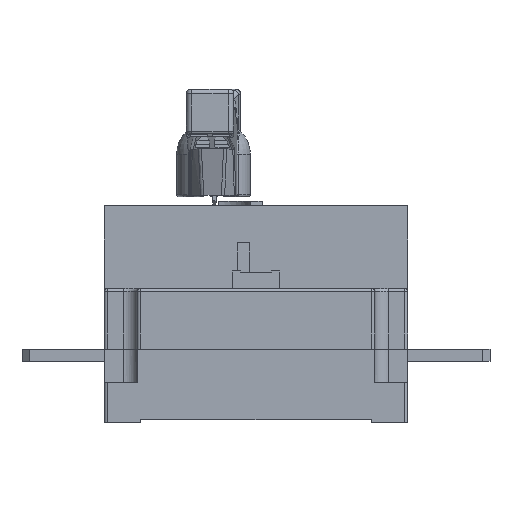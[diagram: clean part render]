
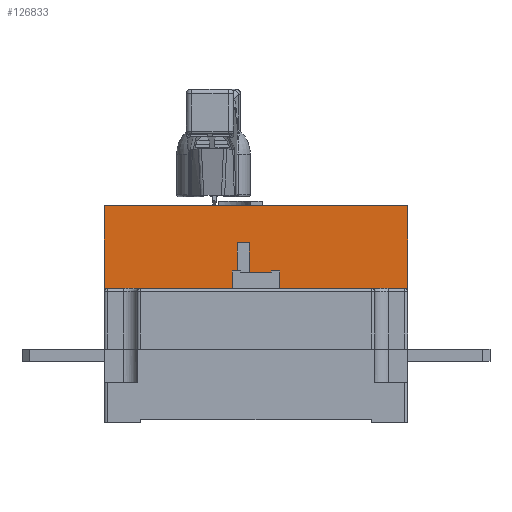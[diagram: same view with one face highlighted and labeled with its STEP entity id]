
A CAD part, left-side view. The second image highlights one B-rep face of the part: STEP entity #126833.
In plain terms, the highlighted planar face has unit normal (-1, 0, 0).
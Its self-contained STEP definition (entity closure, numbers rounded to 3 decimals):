
#269 = CARTESIAN_POINT ( 'NONE',  ( -63., -100., 104.667 ) ) ;
#611 = ORIENTED_EDGE ( 'NONE', *, *, #135708, .F. ) ;
#3189 = EDGE_CURVE ( 'NONE', #172584, #144645, #219959, .T. ) ;
#6685 = VERTEX_POINT ( 'NONE', #196140 ) ;
#10640 = CARTESIAN_POINT ( 'NONE',  ( -63., -30.333, 86.5 ) ) ;
#13076 = CARTESIAN_POINT ( 'NONE',  ( -63., 12.5, 96.5 ) ) ;
#13450 = CARTESIAN_POINT ( 'NONE',  ( -63., 12.5, 116.5 ) ) ;
#15823 = B_SPLINE_CURVE_WITH_KNOTS ( 'NONE', 3,
 ( #222946, #207046, #221832, #13450 ),
 .UNSPECIFIED., .F., .F.,
 ( 4, 4 ),
 ( -1., 0. ),
 .UNSPECIFIED. ) ;
#17578 = VERTEX_POINT ( 'NONE', #100336 ) ;
#17758 = EDGE_CURVE ( 'NONE', #30651, #17578, #193308, .T. ) ;
#21461 = PLANE ( 'NONE',  #160914 ) ;
#26784 = CARTESIAN_POINT ( 'NONE',  ( -63., -100., 86.5 ) ) ;
#30020 = CARTESIAN_POINT ( 'NONE',  ( -63., 12.5, 116.5 ) ) ;
#30651 = VERTEX_POINT ( 'NONE', #135906 ) ;
#34719 = ORIENTED_EDGE ( 'NONE', *, *, #54297, .F. ) ;
#39558 = FACE_OUTER_BOUND ( 'NONE', #188873, .T. ) ;
#40958 = EDGE_CURVE ( 'NONE', #97394, #144645, #166688, .T. ) ;
#44898 = ORIENTED_EDGE ( 'NONE', *, *, #58497, .F. ) ;
#45520 = ORIENTED_EDGE ( 'NONE', *, *, #134501, .F. ) ;
#45640 = CARTESIAN_POINT ( 'NONE',  ( -63., 100., 141. ) ) ;
#51222 = CARTESIAN_POINT ( 'NONE',  ( -63., -100., 141. ) ) ;
#51242 = ORIENTED_EDGE ( 'NONE', *, *, #17758, .F. ) ;
#54297 = EDGE_CURVE ( 'NONE', #6685, #77935, #15823, .T. ) ;
#58497 = EDGE_CURVE ( 'NONE', #172584, #220573, #179231, .T. ) ;
#60554 = CARTESIAN_POINT ( 'NONE',  ( -63., 41.667, 86.5 ) ) ;
#62547 = B_SPLINE_CURVE_WITH_KNOTS ( 'NONE', 3,
 ( #30020, #168164, #13076, #151215 ),
 .UNSPECIFIED., .F., .F.,
 ( 4, 4 ),
 ( 0., 1. ),
 .UNSPECIFIED. ) ;
#68222 = CARTESIAN_POINT ( 'NONE',  ( -63., -100., 122.833 ) ) ;
#73827 = CARTESIAN_POINT ( 'NONE',  ( -63., 12.5, 116.5 ) ) ;
#77935 = VERTEX_POINT ( 'NONE', #73827 ) ;
#78513 = CARTESIAN_POINT ( 'NONE',  ( -63., -33.333, 141. ) ) ;
#80725 = CARTESIAN_POINT ( 'NONE',  ( -63., 33.333, 141. ) ) ;
#81905 = CARTESIAN_POINT ( 'NONE',  ( -63., 4.5, 86.5 ) ) ;
#88694 = ORIENTED_EDGE ( 'NONE', *, *, #128242, .F. ) ;
#90572 = DIRECTION ( 'NONE',  ( 1., 0., 0. ) ) ;
#97394 = VERTEX_POINT ( 'NONE', #177180 ) ;
#98946 = CARTESIAN_POINT ( 'NONE',  ( -63., -65.167, 86.5 ) ) ;
#100336 = CARTESIAN_POINT ( 'NONE',  ( -63., 100., 86.5 ) ) ;
#100439 = CARTESIAN_POINT ( 'NONE',  ( -63., 4.5, 86.5 ) ) ;
#100492 = CARTESIAN_POINT ( 'NONE',  ( -63., 100., 141. ) ) ;
#101150 = CARTESIAN_POINT ( 'NONE',  ( -63., -100., 86.5 ) ) ;
#114959 = ORIENTED_EDGE ( 'NONE', *, *, #40958, .F. ) ;
#115662 = CARTESIAN_POINT ( 'NONE',  ( -63., 70.833, 86.5 ) ) ;
#117196 = ORIENTED_EDGE ( 'NONE', *, *, #3189, .T. ) ;
#118607 = CARTESIAN_POINT ( 'NONE',  ( -63., 100., 104.667 ) ) ;
#126833 = ADVANCED_FACE ( 'NONE', ( #39558 ), #21461, .F. ) ;
#128242 = EDGE_CURVE ( 'NONE', #77935, #30651, #62547, .T. ) ;
#134501 = EDGE_CURVE ( 'NONE', #220573, #6685, #153265, .T. ) ;
#135708 = EDGE_CURVE ( 'NONE', #17578, #97394, #139786, .T. ) ;
#135906 = CARTESIAN_POINT ( 'NONE',  ( -63., 12.5, 86.5 ) ) ;
#136009 = CARTESIAN_POINT ( 'NONE',  ( -63., 12.5, 86.5 ) ) ;
#136680 = CARTESIAN_POINT ( 'NONE',  ( -63., 4.5, 116.5 ) ) ;
#136729 = CARTESIAN_POINT ( 'NONE',  ( -63., 100., 86.5 ) ) ;
#137779 = CARTESIAN_POINT ( 'NONE',  ( -63., 4.5, 106.5 ) ) ;
#139786 = B_SPLINE_CURVE_WITH_KNOTS ( 'NONE', 3,
 ( #136729, #118607, #188791, #100492 ),
 .UNSPECIFIED., .F., .F.,
 ( 4, 4 ),
 ( 0., 1. ),
 .UNSPECIFIED. ) ;
#140410 = DIRECTION ( 'NONE',  ( 0., 0., 1. ) ) ;
#144645 = VERTEX_POINT ( 'NONE', #172820 ) ;
#151215 = CARTESIAN_POINT ( 'NONE',  ( -63., 12.5, 86.5 ) ) ;
#153265 = B_SPLINE_CURVE_WITH_KNOTS ( 'NONE', 3,
 ( #100439, #169484, #137779, #136680 ),
 .UNSPECIFIED., .F., .F.,
 ( 4, 4 ),
 ( 0., 1. ),
 .UNSPECIFIED. ) ;
#157399 = CARTESIAN_POINT ( 'NONE',  ( -63., 100., 141. ) ) ;
#160914 = AXIS2_PLACEMENT_3D ( 'NONE', #157399, #90572, #140410 ) ;
#166688 = B_SPLINE_CURVE_WITH_KNOTS ( 'NONE', 3,
 ( #45640, #80725, #78513, #200810 ),
 .UNSPECIFIED., .F., .F.,
 ( 4, 4 ),
 ( 0., 1. ),
 .UNSPECIFIED. ) ;
#168164 = CARTESIAN_POINT ( 'NONE',  ( -63., 12.5, 106.5 ) ) ;
#169484 = CARTESIAN_POINT ( 'NONE',  ( -63., 4.5, 96.5 ) ) ;
#172584 = VERTEX_POINT ( 'NONE', #26784 ) ;
#172820 = CARTESIAN_POINT ( 'NONE',  ( -63., -100., 141. ) ) ;
#177180 = CARTESIAN_POINT ( 'NONE',  ( -63., 100., 141. ) ) ;
#179231 = B_SPLINE_CURVE_WITH_KNOTS ( 'NONE', 3,
 ( #101150, #98946, #10640, #81905 ),
 .UNSPECIFIED., .F., .F.,
 ( 4, 4 ),
 ( -1., 0. ),
 .UNSPECIFIED. ) ;
#185829 = CARTESIAN_POINT ( 'NONE',  ( -63., 100., 86.5 ) ) ;
#186868 = CARTESIAN_POINT ( 'NONE',  ( -63., 4.5, 86.5 ) ) ;
#188791 = CARTESIAN_POINT ( 'NONE',  ( -63., 100., 122.833 ) ) ;
#188873 = EDGE_LOOP ( 'NONE', ( #88694, #34719, #45520, #44898, #117196, #114959, #611, #51242 ) ) ;
#193308 = B_SPLINE_CURVE_WITH_KNOTS ( 'NONE', 3,
 ( #136009, #60554, #115662, #185829 ),
 .UNSPECIFIED., .F., .F.,
 ( 4, 4 ),
 ( -1., 0. ),
 .UNSPECIFIED. ) ;
#196140 = CARTESIAN_POINT ( 'NONE',  ( -63., 4.5, 116.5 ) ) ;
#200810 = CARTESIAN_POINT ( 'NONE',  ( -63., -100., 141. ) ) ;
#206389 = CARTESIAN_POINT ( 'NONE',  ( -63., -100., 86.5 ) ) ;
#207046 = CARTESIAN_POINT ( 'NONE',  ( -63., 7.167, 116.5 ) ) ;
#219959 = B_SPLINE_CURVE_WITH_KNOTS ( 'NONE', 3,
 ( #206389, #269, #68222, #51222 ),
 .UNSPECIFIED., .F., .F.,
 ( 4, 4 ),
 ( 0., 1. ),
 .UNSPECIFIED. ) ;
#220573 = VERTEX_POINT ( 'NONE', #186868 ) ;
#221832 = CARTESIAN_POINT ( 'NONE',  ( -63., 9.833, 116.5 ) ) ;
#222946 = CARTESIAN_POINT ( 'NONE',  ( -63., 4.5, 116.5 ) ) ;
